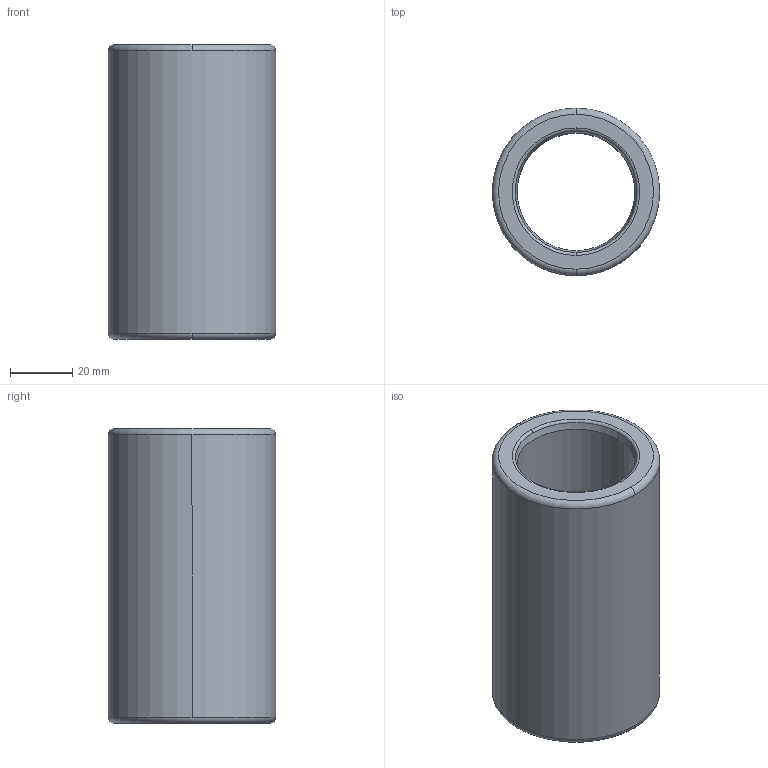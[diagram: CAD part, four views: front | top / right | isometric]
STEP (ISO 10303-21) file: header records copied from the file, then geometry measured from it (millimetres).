
FILE_DESCRIPTION((''),'2;1');
FILE_NAME('B30_030_095.stp','2009-01-12T10:01:10',(''),(''),'Mechanical Desktop 2009','Mechanical Desktop 2009',', , ');
FILE_SCHEMA(('CONFIG_CONTROL_DESIGN'));
Length unit declared in the file: millimetre
Products named in the file (2): Product; blmdl1
Assembly tree (1 placements, depth 2):
  Product
    blmdl1
Bounding box: 53.99 x 53.99 x 95 mm (x, y, z)
Volume: 109311.8 mm3; surface area: 29250.1 mm2
Topology: 1 solids, 1 shells, 18 faces, 48 edges, 32 vertices
Faces by surface type: torus 8, cylinder 4, cone 4, plane 2
Entity records: 705 total; most frequent: DIRECTION 128, CARTESIAN_POINT 100, ORIENTED_EDGE 96, AXIS2_PLACEMENT_3D 60, EDGE_CURVE 48, CIRCLE 40, VERTEX_POINT 32, EDGE_LOOP 20
